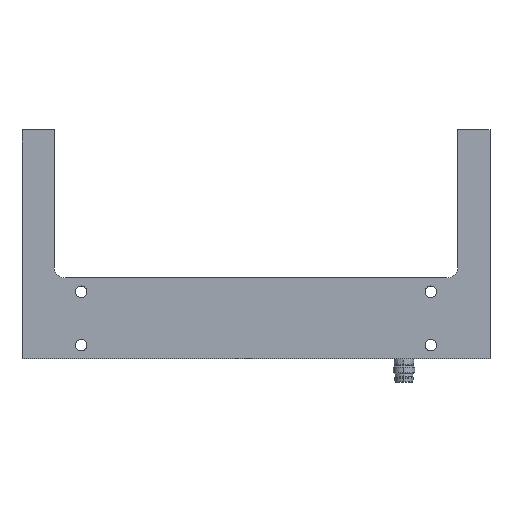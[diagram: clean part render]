
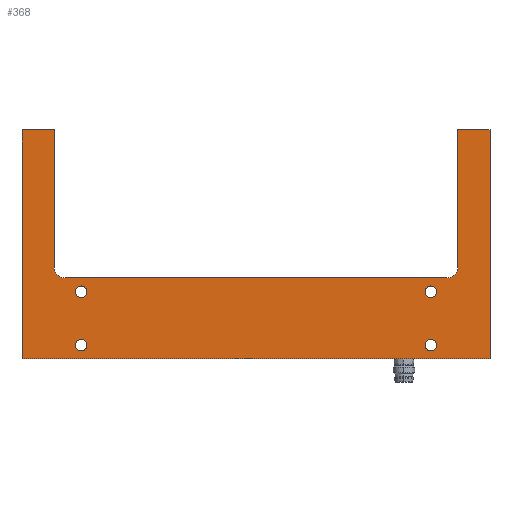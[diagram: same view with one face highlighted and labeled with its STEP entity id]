
A CAD part, top view. The second image highlights one B-rep face of the part: STEP entity #368.
In plain terms, the highlighted planar face has unit normal (0, 0, 1).
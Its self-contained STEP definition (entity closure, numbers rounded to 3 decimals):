
#210=EDGE_CURVE('',#222,#374,#587,.T.);
#222=VERTEX_POINT('',#603);
#242=EDGE_CURVE('',#508,#630,#631,.F.);
#260=VERTEX_POINT('',#658);
#278=VERTEX_POINT('',#680);
#300=EDGE_CURVE('',#260,#710,#711,.F.);
#302=EDGE_CURVE('',#526,#440,#713,.T.);
#312=EDGE_CURVE('',#560,#318,#729,.T.);
#318=VERTEX_POINT('',#737);
#368=ADVANCED_FACE('',(#809,#810,#811,#812,#813),#814,.T.);
#374=VERTEX_POINT('',#820);
#382=VERTEX_POINT('',#831);
#424=EDGE_CURVE('',#883,#382,#884,.F.);
#436=VERTEX_POINT('',#898);
#438=VERTEX_POINT('',#900);
#440=VERTEX_POINT('',#902);
#442=EDGE_CURVE('',#630,#508,#904,.F.);
#448=EDGE_CURVE('',#912,#436,#913,.F.);
#466=VERTEX_POINT('',#937);
#476=EDGE_CURVE('',#440,#438,#949,.F.);
#496=EDGE_CURVE('',#558,#526,#981,.F.);
#500=EDGE_CURVE('',#374,#560,#986,.T.);
#504=EDGE_CURVE('',#466,#278,#991,.T.);
#508=VERTEX_POINT('',#996);
#518=EDGE_CURVE('',#710,#260,#1009,.F.);
#522=EDGE_CURVE('',#278,#558,#1014,.T.);
#526=VERTEX_POINT('',#1018);
#538=EDGE_CURVE('',#438,#222,#1038,.T.);
#548=EDGE_CURVE('',#436,#912,#1051,.F.);
#554=EDGE_CURVE('',#382,#883,#1059,.F.);
#558=VERTEX_POINT('',#1063);
#560=VERTEX_POINT('',#1065);
#562=EDGE_CURVE('',#318,#466,#1067,.T.);
#587=LINE('',#1087,#1088);
#603=CARTESIAN_POINT('',(-75.0,42.5,6.0));
#630=VERTEX_POINT('',#1138);
#631=CIRCLE('',#1139,2.15);
#658=CARTESIAN_POINT('',(-67.15,-17.65,6.0));
#680=CARTESIAN_POINT('',(75.0,42.5,6.0));
#710=VERTEX_POINT('',#1231);
#711=CIRCLE('',#1232,2.15);
#713=LINE('',#1235,#1236);
#729=LINE('',#1253,#1254);
#737=CARTESIAN_POINT('',(87.0,-42.5,6.0));
#809=FACE_OUTER_BOUND('',#1341,.T.);
#810=FACE_BOUND('',#1342,.T.);
#811=FACE_BOUND('',#1343,.T.);
#812=FACE_BOUND('',#1344,.T.);
#813=FACE_BOUND('',#1345,.T.);
#814=PLANE('',#1346);
#820=CARTESIAN_POINT('',(-87.0,42.5,6.0));
#831=CARTESIAN_POINT('',(62.85,-37.5,6.0));
#883=VERTEX_POINT('',#1461);
#884=CIRCLE('',#1462,2.15);
#898=CARTESIAN_POINT('',(62.85,-17.65,6.0));
#900=CARTESIAN_POINT('',(-75.0,-8.5,6.0));
#902=CARTESIAN_POINT('',(-71.0,-12.5,6.0));
#904=CIRCLE('',#1485,2.15);
#912=VERTEX_POINT('',#1494);
#913=CIRCLE('',#1495,2.15);
#937=CARTESIAN_POINT('',(87.0,42.5,6.0));
#949=CIRCLE('',#1535,4.0);
#981=CIRCLE('',#1569,4.0);
#986=LINE('',#1575,#1576);
#991=LINE('',#1582,#1583);
#996=CARTESIAN_POINT('',(-67.15,-37.5,6.0));
#1009=CIRCLE('',#1603,2.15);
#1014=LINE('',#1609,#1610);
#1018=CARTESIAN_POINT('',(71.0,-12.5,6.0));
#1038=LINE('',#1672,#1673);
#1051=CIRCLE('',#1688,2.15);
#1059=CIRCLE('',#1697,2.15);
#1063=CARTESIAN_POINT('',(75.0,-8.5,6.0));
#1065=CARTESIAN_POINT('',(-87.0,-42.5,6.0));
#1067=LINE('',#1708,#1709);
#1087=CARTESIAN_POINT('',(57.0,42.5,6.0));
#1088=VECTOR('',#1721,1.0);
#1138=CARTESIAN_POINT('',(-62.85,-37.5,6.0));
#1139=AXIS2_PLACEMENT_3D('',#1788,#1789,#1790);
#1231=CARTESIAN_POINT('',(-62.85,-17.65,6.0));
#1232=AXIS2_PLACEMENT_3D('',#1932,#1933,#1934);
#1235=CARTESIAN_POINT('',(87.0,-12.5,6.0));
#1236=VECTOR('',#1935,1.0);
#1253=CARTESIAN_POINT('',(-57.0,-42.5,6.0));
#1254=VECTOR('',#1972,1.0);
#1341=EDGE_LOOP('',(#2140,#2141,#2142,#2143,#2144,#2145,#2146,#2147,#2148,#2149));
#1342=EDGE_LOOP('',(#2150,#2151));
#1343=EDGE_LOOP('',(#2152,#2153));
#1344=EDGE_LOOP('',(#2154,#2155));
#1345=EDGE_LOOP('',(#2156,#2157));
#1346=AXIS2_PLACEMENT_3D('',#2158,#2159,#2160);
#1461=CARTESIAN_POINT('',(67.15,-37.5,6.0));
#1462=AXIS2_PLACEMENT_3D('',#2270,#2271,#2272);
#1485=AXIS2_PLACEMENT_3D('',#2290,#2291,#2292);
#1494=CARTESIAN_POINT('',(67.15,-17.65,6.0));
#1495=AXIS2_PLACEMENT_3D('',#2309,#2310,#2311);
#1535=AXIS2_PLACEMENT_3D('',#2358,#2359,#2360);
#1569=AXIS2_PLACEMENT_3D('',#2426,#2427,#2428);
#1575=CARTESIAN_POINT('',(-87.0,31.0,6.0));
#1576=VECTOR('',#2435,1.0);
#1582=CARTESIAN_POINT('',(87.0,42.5,6.0));
#1583=VECTOR('',#2444,1.0);
#1603=AXIS2_PLACEMENT_3D('',#2479,#2480,#2481);
#1609=CARTESIAN_POINT('',(75.0,42.5,6.0));
#1610=VECTOR('',#2490,1.0);
#1672=CARTESIAN_POINT('',(-75.0,42.5,6.0));
#1673=VECTOR('',#2538,1.0);
#1688=AXIS2_PLACEMENT_3D('',#2566,#2567,#2568);
#1697=AXIS2_PLACEMENT_3D('',#2585,#2586,#2587);
#1708=CARTESIAN_POINT('',(87.0,-47.5,6.0));
#1709=VECTOR('',#2589,1.0);
#1721=DIRECTION('',(-1.0,0.,0.0));
#1788=CARTESIAN_POINT('',(-65.0,-37.5,6.0));
#1789=DIRECTION('',(0.0,0.0,1.0));
#1790=DIRECTION('',(-1.0,0.,0.0));
#1932=CARTESIAN_POINT('',(-65.0,-17.65,6.0));
#1933=DIRECTION('',(0.0,0.0,1.0));
#1934=DIRECTION('',(-1.0,0.,0.0));
#1935=DIRECTION('',(-1.0,0.,0.0));
#1972=DIRECTION('',(1.0,0.,0.0));
#2140=ORIENTED_EDGE('',*,*,#500,.T.);
#2141=ORIENTED_EDGE('',*,*,#312,.T.);
#2142=ORIENTED_EDGE('',*,*,#562,.T.);
#2143=ORIENTED_EDGE('',*,*,#504,.T.);
#2144=ORIENTED_EDGE('',*,*,#522,.T.);
#2145=ORIENTED_EDGE('',*,*,#496,.T.);
#2146=ORIENTED_EDGE('',*,*,#302,.T.);
#2147=ORIENTED_EDGE('',*,*,#476,.T.);
#2148=ORIENTED_EDGE('',*,*,#538,.T.);
#2149=ORIENTED_EDGE('',*,*,#210,.T.);
#2150=ORIENTED_EDGE('',*,*,#242,.T.);
#2151=ORIENTED_EDGE('',*,*,#442,.T.);
#2152=ORIENTED_EDGE('',*,*,#554,.T.);
#2153=ORIENTED_EDGE('',*,*,#424,.T.);
#2154=ORIENTED_EDGE('',*,*,#300,.T.);
#2155=ORIENTED_EDGE('',*,*,#518,.T.);
#2156=ORIENTED_EDGE('',*,*,#548,.T.);
#2157=ORIENTED_EDGE('',*,*,#448,.T.);
#2158=CARTESIAN_POINT('',(72.712,-27.288,6.0));
#2159=DIRECTION('',(0.0,0.0,1.0));
#2160=DIRECTION('',(1.0,0.0,0.0));
#2270=CARTESIAN_POINT('',(65.0,-37.5,6.0));
#2271=DIRECTION('',(0.0,0.0,1.0));
#2272=DIRECTION('',(-1.0,0.,0.0));
#2290=CARTESIAN_POINT('',(-65.0,-37.5,6.0));
#2291=DIRECTION('',(0.0,0.0,1.0));
#2292=DIRECTION('',(-1.0,0.,0.0));
#2309=CARTESIAN_POINT('',(65.0,-17.65,6.0));
#2310=DIRECTION('',(0.0,0.0,1.0));
#2311=DIRECTION('',(-1.0,0.,0.0));
#2358=CARTESIAN_POINT('',(-71.0,-8.5,6.0));
#2359=DIRECTION('',(0.0,0.0,1.0));
#2360=DIRECTION('',(-1.0,0.,0.0));
#2426=CARTESIAN_POINT('',(71.0,-8.5,6.0));
#2427=DIRECTION('',(0.0,0.0,1.0));
#2428=DIRECTION('',(-1.0,0.,0.0));
#2435=DIRECTION('',(0.,-1.0,0.0));
#2444=DIRECTION('',(-1.0,0.,0.0));
#2479=CARTESIAN_POINT('',(-65.0,-17.65,6.0));
#2480=DIRECTION('',(0.0,0.0,1.0));
#2481=DIRECTION('',(-1.0,0.,0.0));
#2490=DIRECTION('',(0.,-1.0,0.0));
#2538=DIRECTION('',(0.,1.0,0.0));
#2566=CARTESIAN_POINT('',(65.0,-17.65,6.0));
#2567=DIRECTION('',(0.0,0.0,1.0));
#2568=DIRECTION('',(-1.0,0.,0.0));
#2585=CARTESIAN_POINT('',(65.0,-37.5,6.0));
#2586=DIRECTION('',(0.0,0.0,1.0));
#2587=DIRECTION('',(-1.0,0.,0.0));
#2589=DIRECTION('',(0.,1.0,0.0));
